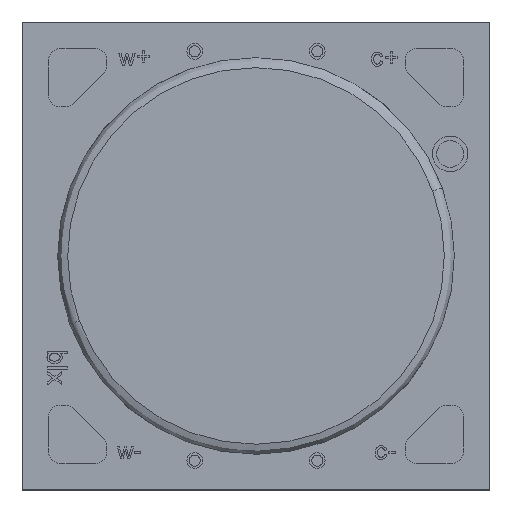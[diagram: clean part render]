
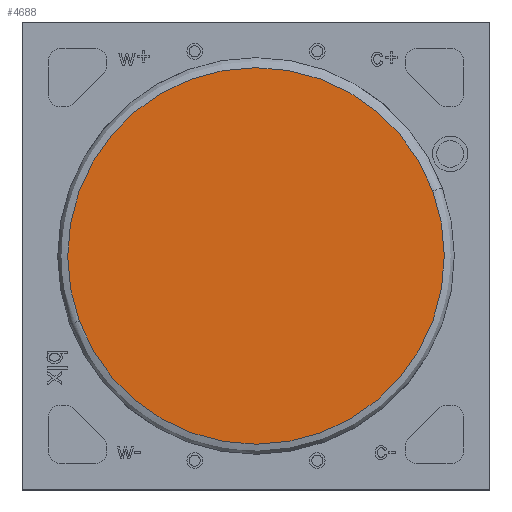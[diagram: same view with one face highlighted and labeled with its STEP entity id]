
A CAD part, top view. The second image highlights one B-rep face of the part: STEP entity #4688.
In plain terms, the highlighted planar face has unit normal (0, 0, 1).
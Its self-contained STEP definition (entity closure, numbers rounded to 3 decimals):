
#610 = FACE_OUTER_BOUND ( 'NONE', #5221, .T. ) ;
#667 = DIRECTION ( 'NONE',  ( 0., 0., -1. ) ) ;
#1587 = DIRECTION ( 'NONE',  ( 0., 0., -1. ) ) ;
#2877 = CIRCLE ( 'NONE', #7783, 8.45 ) ;
#3514 = DIRECTION ( 'NONE',  ( 0., 0., -1. ) ) ;
#3729 = VERTEX_POINT ( 'NONE', #5796 ) ;
#4366 = ORIENTED_EDGE ( 'NONE', *, *, #7657, .F. ) ;
#4688 = ADVANCED_FACE ( 'NONE', ( #610 ), #8890, .F. ) ;
#4813 = CARTESIAN_POINT ( 'NONE',  ( 4.165, 2.565, 22.15 ) ) ;
#5221 = EDGE_LOOP ( 'NONE', ( #6998, #4366 ) ) ;
#5389 = AXIS2_PLACEMENT_3D ( 'NONE', #5732, #1587, #6429 ) ;
#5513 = DIRECTION ( 'NONE',  ( 0.343, -0.939, 0. ) ) ;
#5732 = CARTESIAN_POINT ( 'NONE',  ( -3.772, -0.336, 22.15 ) ) ;
#5796 = CARTESIAN_POINT ( 'NONE',  ( 4.165, 2.565, 22.15 ) ) ;
#6429 = DIRECTION ( 'NONE',  ( 0.343, -0.939, 0. ) ) ;
#6998 = ORIENTED_EDGE ( 'NONE', *, *, #8012, .F. ) ;
#7131 = CIRCLE ( 'NONE', #5389, 8.45 ) ;
#7409 = VERTEX_POINT ( 'NONE', #7467 ) ;
#7467 = CARTESIAN_POINT ( 'NONE',  ( -11.708, -3.237, 22.15 ) ) ;
#7640 = CARTESIAN_POINT ( 'NONE',  ( -3.772, -0.336, 22.15 ) ) ;
#7657 = EDGE_CURVE ( 'NONE', #7409, #3729, #7131, .T. ) ;
#7783 = AXIS2_PLACEMENT_3D ( 'NONE', #7640, #3514, #8324 ) ;
#8012 = EDGE_CURVE ( 'NONE', #3729, #7409, #2877, .T. ) ;
#8150 = AXIS2_PLACEMENT_3D ( 'NONE', #4813, #667, #5513 ) ;
#8324 = DIRECTION ( 'NONE',  ( 0.343, -0.939, 0. ) ) ;
#8890 = PLANE ( 'NONE',  #8150 ) ;
